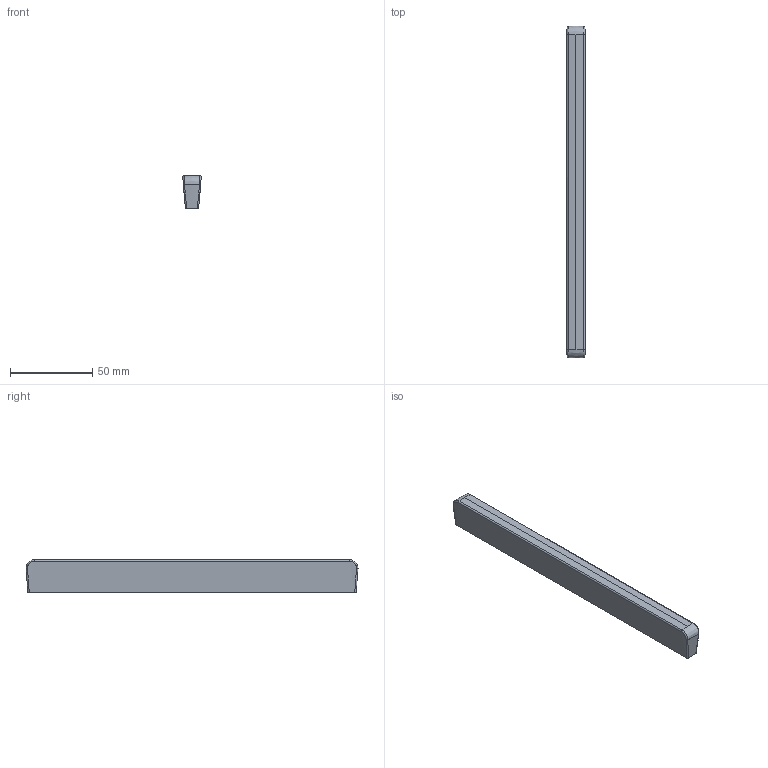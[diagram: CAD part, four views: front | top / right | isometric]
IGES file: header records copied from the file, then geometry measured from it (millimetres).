
Start section: C
Global section: file name: 8278-202 R.igs; native system: By Siemens PLM Incorporated; preprocessor: XPlus GENERIC/IGES 16.0.42; author: Author; organization: Title; date: 20210505.123400; units: millimetre
Bounding box: 11.06 x 201.69 x 20 mm (x, y, z)
Surface area: 21474.7 mm2 (no closed solid volume)
Topology: 0 solids, 0 shells, 68 faces, 324 edges, 324 vertices
Faces by surface type: bspline 68
